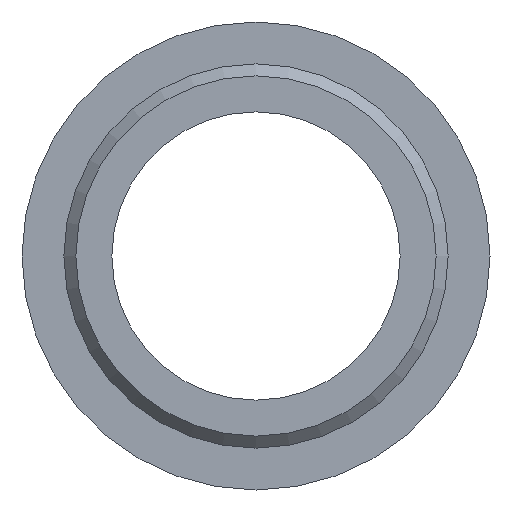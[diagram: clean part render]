
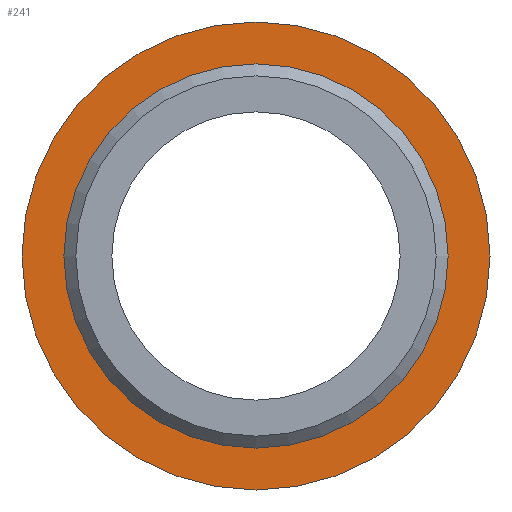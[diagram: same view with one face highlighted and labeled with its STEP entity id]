
A CAD part, front view. The second image highlights one B-rep face of the part: STEP entity #241.
In plain terms, the highlighted planar face has unit normal (0, -1, 0).
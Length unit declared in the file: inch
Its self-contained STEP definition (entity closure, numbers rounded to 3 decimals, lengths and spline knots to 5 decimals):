
#10 = AXIS2_PLACEMENT_3D ( 'NONE', #327, #323, #322 ) ;
#21 = AXIS2_PLACEMENT_3D ( 'NONE', #363, #362, #361 ) ;
#25 = AXIS2_PLACEMENT_3D ( 'NONE', #250, #249, #302 ) ;
#44 = EDGE_CURVE ( 'NONE', #144, #144, #112, .T. ) ;
#48 = EDGE_CURVE ( 'NONE', #182, #182, #135, .T. ) ;
#91 = FACE_BOUND ( 'NONE', #122, .T. ) ;
#105 = ORIENTED_EDGE ( 'NONE', *, *, #44, .F. ) ;
#112 = CIRCLE ( 'NONE', #25, 0.46875 ) ;
#122 = EDGE_LOOP ( 'NONE', ( #105 ) ) ;
#135 = CIRCLE ( 'NONE', #21, 0.609 ) ;
#144 = VERTEX_POINT ( 'NONE', #292 ) ;
#182 = VERTEX_POINT ( 'NONE', #286 ) ;
#209 = EDGE_LOOP ( 'NONE', ( #222 ) ) ;
#222 = ORIENTED_EDGE ( 'NONE', *, *, #48, .T. ) ;
#224 = FACE_OUTER_BOUND ( 'NONE', #209, .T. ) ;
#241 = ADVANCED_FACE ( 'NONE', ( #224, #91 ), #325, .T. ) ;
#249 = DIRECTION ( 'NONE',  ( 0., -1., 0. ) ) ;
#250 = CARTESIAN_POINT ( 'NONE',  ( 0., 0.13125, 0. ) ) ;
#286 = CARTESIAN_POINT ( 'NONE',  ( 0., 0.13125, -0.609 ) ) ;
#292 = CARTESIAN_POINT ( 'NONE',  ( 0., 0.13125, -0.46875 ) ) ;
#302 = DIRECTION ( 'NONE',  ( 0., 0., -1. ) ) ;
#322 = DIRECTION ( 'NONE',  ( 0., 0., -1. ) ) ;
#323 = DIRECTION ( 'NONE',  ( 0., -1., 0. ) ) ;
#325 = PLANE ( 'NONE',  #10 ) ;
#327 = CARTESIAN_POINT ( 'NONE',  ( 0.46875, 0.13125, 0. ) ) ;
#361 = DIRECTION ( 'NONE',  ( 0., 0., -1. ) ) ;
#362 = DIRECTION ( 'NONE',  ( 0., -1., 0. ) ) ;
#363 = CARTESIAN_POINT ( 'NONE',  ( 0., 0.13125, 0. ) ) ;
